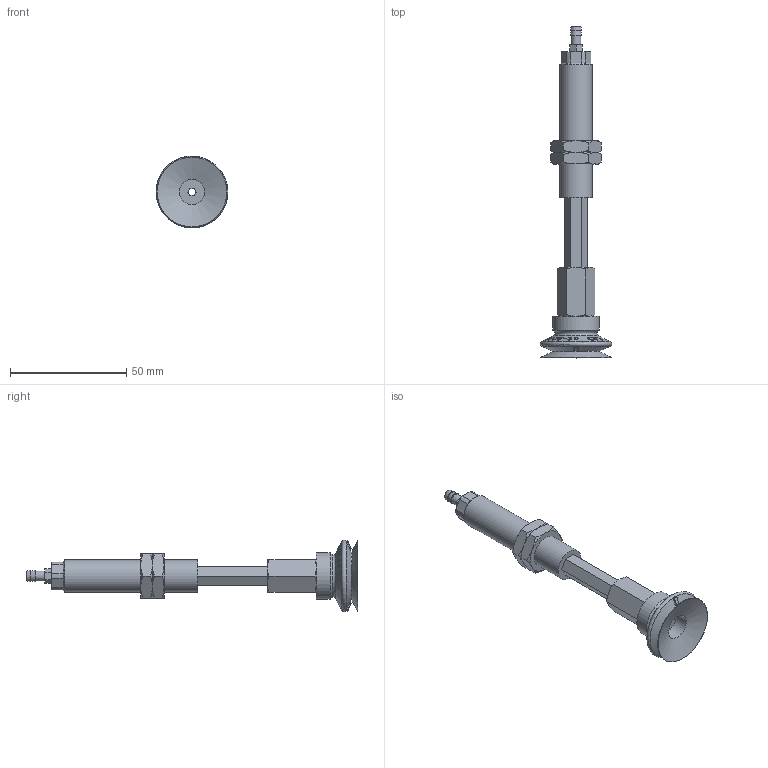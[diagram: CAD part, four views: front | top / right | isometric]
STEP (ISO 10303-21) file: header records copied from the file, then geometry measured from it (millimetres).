
FILE_DESCRIPTION(('STEP AP214'),'1');
FILE_NAME('-T.stp','2026-01-21T06:55:42',(' '),(' '),'Spatial InterOp 3D',' ',' ');
FILE_SCHEMA(('AUTOMOTIVE_DESIGN { 1 0 10303 214 1 1 1 1 }'));
Length unit declared in the file: millimetre
Products named in the file (8): BNABPJTH-30-30-※-T; T; ADAPTER; NAPJTH-30-30-MBODY; BPJG-30-※; Adapter-30-NAPJ; NAPJH-30-30-NUT; NAPJTH-30-30-FBODY
Assembly tree (8 placements, depth 2):
  BNABPJTH-30-30-※-T
    T
    ADAPTER
    NAPJTH-30-30-MBODY
    BPJG-30-※
    Adapter-30-NAPJ
    NAPJH-30-30-NUT  x2
    NAPJTH-30-30-FBODY
Bounding box: 30.99 x 143 x 30.99 mm (x, y, z)
Volume: 21984.8 mm3; surface area: 16223.6 mm2
Topology: 8 solids, 8 shells, 798 faces, 2206 edges, 1449 vertices
Faces by surface type: plane 691, cone 70, cylinder 30, torus 7
Full cylindrical faces by diameter (mm): 3 x4, 4.134 x1, 4.3 x1, 4.917 x1, 5 x1, 5.8 x1, 6 x1, 10.8 x1, 11 x1, 13.188 x2, 14 x1, 20 x1
Entity records: 31862 total; most frequent: CARTESIAN_POINT 7815, ORIENTED_EDGE 4240, DIRECTION 2713, EDGE_CURVE 2120, VERTEX_POINT 1417, B_SPLINE_CURVE_WITH_KNOTS 1084, LINE 927, VECTOR 927
